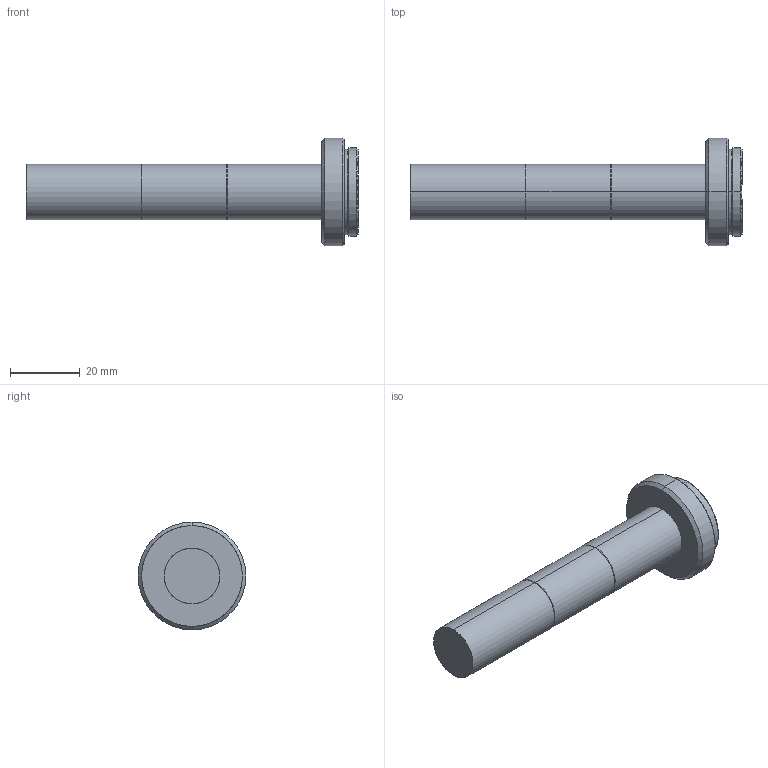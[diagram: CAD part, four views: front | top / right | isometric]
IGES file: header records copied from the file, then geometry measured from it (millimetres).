
Start section: SolidWorks IGES file using analytic representation for surfaces
Bounding box: 95.5 x 31 x 31 mm (x, y, z)
Surface area: 6677.8 mm2 (no closed solid volume)
Topology: 0 solids, 0 shells, 32 faces, 368 edges, 368 vertices
Faces by surface type: revolution 28, bspline 4
